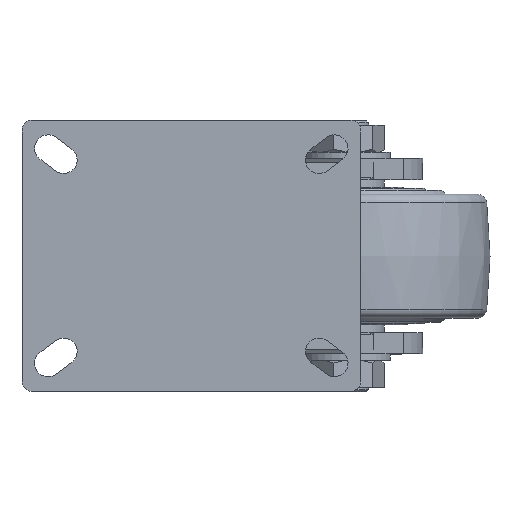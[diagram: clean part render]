
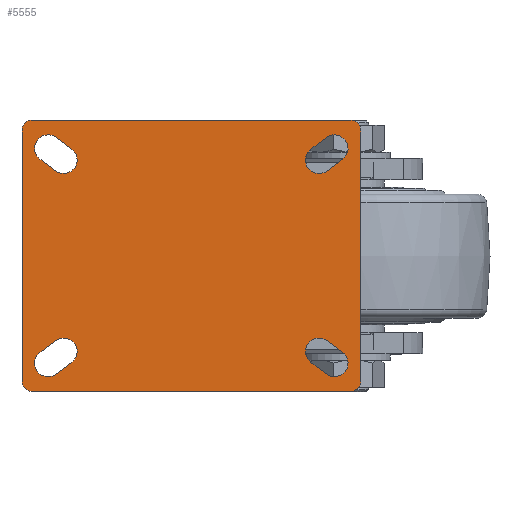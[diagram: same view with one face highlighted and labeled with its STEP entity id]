
A CAD part, top view. The second image highlights one B-rep face of the part: STEP entity #5555.
In plain terms, the highlighted planar face has unit normal (0, 0, 1).
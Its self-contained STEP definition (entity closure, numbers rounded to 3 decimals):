
#4242=CARTESIAN_POINT('',(90.716,258.53,175.));
#4243=VERTEX_POINT('',#4242);
#4244=CARTESIAN_POINT('',(99.116,247.33,175.));
#4245=VERTEX_POINT('',#4244);
#4246=CARTESIAN_POINT('',(94.916,252.93,175.));
#4247=DIRECTION('',(0.0,0.0,1.0));
#4248=DIRECTION('',(1.0,0.0,0.0));
#4249=AXIS2_PLACEMENT_3D('',#4246,#4247,#4248);
#4250=CIRCLE('',#4249,7.);
#4251=EDGE_CURVE('',#4243,#4245,#4250,.T.);
#4295=CARTESIAN_POINT('',(107.116,253.33,175.));
#4296=VERTEX_POINT('',#4295);
#4303=CARTESIAN_POINT('',(98.716,264.53,175.));
#4304=VERTEX_POINT('',#4303);
#4305=CARTESIAN_POINT('',(102.916,258.93,175.));
#4306=DIRECTION('',(0.0,0.0,1.0));
#4307=DIRECTION('',(1.0,0.0,0.0));
#4308=AXIS2_PLACEMENT_3D('',#4305,#4306,#4307);
#4309=CIRCLE('',#4308,7.);
#4310=EDGE_CURVE('',#4296,#4304,#4309,.T.);
#4337=CARTESIAN_POINT('',(98.716,142.33,175.));
#4338=VERTEX_POINT('',#4337);
#4345=CARTESIAN_POINT('',(107.116,153.53,175.));
#4346=VERTEX_POINT('',#4345);
#4347=CARTESIAN_POINT('',(102.916,147.93,175.));
#4348=DIRECTION('',(0.0,0.0,1.0));
#4349=DIRECTION('',(1.0,0.0,0.0));
#4350=AXIS2_PLACEMENT_3D('',#4347,#4348,#4349);
#4351=CIRCLE('',#4350,7.);
#4352=EDGE_CURVE('',#4338,#4346,#4351,.T.);
#4368=CARTESIAN_POINT('',(99.116,159.53,175.));
#4369=VERTEX_POINT('',#4368);
#4370=CARTESIAN_POINT('',(90.716,148.33,175.));
#4371=VERTEX_POINT('',#4370);
#4372=CARTESIAN_POINT('',(94.916,153.93,175.));
#4373=DIRECTION('',(0.0,0.0,1.0));
#4374=DIRECTION('',(1.0,0.0,0.0));
#4375=AXIS2_PLACEMENT_3D('',#4372,#4373,#4374);
#4376=CIRCLE('',#4375,7.);
#4377=EDGE_CURVE('',#4369,#4371,#4376,.T.);
#4421=CARTESIAN_POINT('',(-32.884,148.33,175.));
#4422=VERTEX_POINT('',#4421);
#4429=CARTESIAN_POINT('',(-41.284,159.53,175.));
#4430=VERTEX_POINT('',#4429);
#4431=CARTESIAN_POINT('',(-37.084,153.93,175.));
#4432=DIRECTION('',(0.0,0.0,1.0));
#4433=DIRECTION('',(1.0,0.0,0.0));
#4434=AXIS2_PLACEMENT_3D('',#4431,#4432,#4433);
#4435=CIRCLE('',#4434,7.);
#4436=EDGE_CURVE('',#4422,#4430,#4435,.T.);
#4452=CARTESIAN_POINT('',(-49.284,153.53,175.));
#4453=VERTEX_POINT('',#4452);
#4454=CARTESIAN_POINT('',(-40.884,142.33,175.));
#4455=VERTEX_POINT('',#4454);
#4456=CARTESIAN_POINT('',(-45.084,147.93,175.));
#4457=DIRECTION('',(0.0,0.0,1.0));
#4458=DIRECTION('',(1.0,0.0,0.0));
#4459=AXIS2_PLACEMENT_3D('',#4456,#4457,#4458);
#4460=CIRCLE('',#4459,7.);
#4461=EDGE_CURVE('',#4453,#4455,#4460,.T.);
#4494=CARTESIAN_POINT('',(-40.884,264.53,175.));
#4495=VERTEX_POINT('',#4494);
#4496=CARTESIAN_POINT('',(-49.284,253.33,175.));
#4497=VERTEX_POINT('',#4496);
#4498=CARTESIAN_POINT('',(-45.084,258.93,175.));
#4499=DIRECTION('',(0.0,0.0,1.0));
#4500=DIRECTION('',(1.0,0.0,0.0));
#4501=AXIS2_PLACEMENT_3D('',#4498,#4499,#4500);
#4502=CIRCLE('',#4501,7.);
#4503=EDGE_CURVE('',#4495,#4497,#4502,.T.);
#4547=CARTESIAN_POINT('',(-41.284,247.33,175.));
#4548=VERTEX_POINT('',#4547);
#4555=CARTESIAN_POINT('',(-32.884,258.53,175.));
#4556=VERTEX_POINT('',#4555);
#4557=CARTESIAN_POINT('',(-37.084,252.93,175.));
#4558=DIRECTION('',(0.0,0.0,1.0));
#4559=DIRECTION('',(1.0,0.0,0.0));
#4560=AXIS2_PLACEMENT_3D('',#4557,#4558,#4559);
#4561=CIRCLE('',#4560,7.);
#4562=EDGE_CURVE('',#4548,#4556,#4561,.T.);
#4614=CARTESIAN_POINT('',(116.416,138.43,175.));
#4615=VERTEX_POINT('',#4614);
#4622=CARTESIAN_POINT('',(111.416,133.43,175.));
#4623=VERTEX_POINT('',#4622);
#4624=CARTESIAN_POINT('',(111.416,138.43,175.));
#4625=DIRECTION('',(0.0,0.0,-1.));
#4626=DIRECTION('',(0.707,-0.707,0.0));
#4627=AXIS2_PLACEMENT_3D('',#4624,#4625,#4626);
#4628=CIRCLE('',#4627,5.);
#4629=EDGE_CURVE('',#4615,#4623,#4628,.T.);
#4656=CARTESIAN_POINT('',(111.416,273.43,175.));
#4657=VERTEX_POINT('',#4656);
#4664=CARTESIAN_POINT('',(116.416,268.43,175.));
#4665=VERTEX_POINT('',#4664);
#4666=CARTESIAN_POINT('',(111.416,268.43,175.));
#4667=DIRECTION('',(0.0,0.0,-1.));
#4668=DIRECTION('',(0.707,0.707,0.0));
#4669=AXIS2_PLACEMENT_3D('',#4666,#4667,#4668);
#4670=CIRCLE('',#4669,5.);
#4671=EDGE_CURVE('',#4657,#4665,#4670,.T.);
#4698=CARTESIAN_POINT('',(-58.584,268.43,175.));
#4699=VERTEX_POINT('',#4698);
#4706=CARTESIAN_POINT('',(-53.584,273.43,175.));
#4707=VERTEX_POINT('',#4706);
#4708=CARTESIAN_POINT('',(-53.584,268.43,175.));
#4709=DIRECTION('',(0.0,0.0,-1.));
#4710=DIRECTION('',(-0.707,0.707,0.0));
#4711=AXIS2_PLACEMENT_3D('',#4708,#4709,#4710);
#4712=CIRCLE('',#4711,5.);
#4713=EDGE_CURVE('',#4699,#4707,#4712,.T.);
#4740=CARTESIAN_POINT('',(-53.584,133.43,175.));
#4741=VERTEX_POINT('',#4740);
#4748=CARTESIAN_POINT('',(-58.584,138.43,175.));
#4749=VERTEX_POINT('',#4748);
#4750=CARTESIAN_POINT('',(-53.584,138.43,175.));
#4751=DIRECTION('',(0.0,0.0,-1.));
#4752=DIRECTION('',(-0.707,-0.707,0.0));
#4753=AXIS2_PLACEMENT_3D('',#4750,#4751,#4752);
#4754=CIRCLE('',#4753,5.);
#4755=EDGE_CURVE('',#4741,#4749,#4754,.T.);
#5172=CARTESIAN_POINT('',(-58.584,138.43,175.));
#5173=DIRECTION('',(0.0,1.0,0.0));
#5174=VECTOR('',#5173,130.);
#5175=LINE('',#5172,#5174);
#5176=EDGE_CURVE('',#4749,#4699,#5175,.T.);
#5271=CARTESIAN_POINT('',(116.416,268.43,175.));
#5272=DIRECTION('',(0.0,-1.0,0.0));
#5273=VECTOR('',#5272,130.0);
#5274=LINE('',#5271,#5273);
#5275=EDGE_CURVE('',#4665,#4615,#5274,.T.);
#5350=CARTESIAN_POINT('',(-53.584,273.43,175.));
#5351=DIRECTION('',(1.0,0.0,0.0));
#5352=VECTOR('',#5351,165.0);
#5353=LINE('',#5350,#5352);
#5354=EDGE_CURVE('',#4707,#4657,#5353,.T.);
#5371=CARTESIAN_POINT('',(111.416,133.43,175.));
#5372=DIRECTION('',(-1.0,0.0,0.0));
#5373=VECTOR('',#5372,165.0);
#5374=LINE('',#5371,#5373);
#5375=EDGE_CURVE('',#4623,#4741,#5374,.T.);
#5385=CARTESIAN_POINT('',(-32.884,258.53,175.));
#5386=DIRECTION('',(-0.8,0.6,0.0));
#5387=VECTOR('',#5386,10.0);
#5388=LINE('',#5385,#5387);
#5389=EDGE_CURVE('',#4556,#4495,#5388,.T.);
#5402=CARTESIAN_POINT('',(-49.284,253.33,175.));
#5403=DIRECTION('',(0.8,-0.6,0.0));
#5404=VECTOR('',#5403,10.);
#5405=LINE('',#5402,#5404);
#5406=EDGE_CURVE('',#4497,#4548,#5405,.T.);
#5419=CARTESIAN_POINT('',(-40.884,142.33,175.));
#5420=DIRECTION('',(0.8,0.6,0.0));
#5421=VECTOR('',#5420,10.0);
#5422=LINE('',#5419,#5421);
#5423=EDGE_CURVE('',#4455,#4422,#5422,.T.);
#5436=CARTESIAN_POINT('',(-41.284,159.53,175.));
#5437=DIRECTION('',(-0.8,-0.6,0.0));
#5438=VECTOR('',#5437,10.);
#5439=LINE('',#5436,#5438);
#5440=EDGE_CURVE('',#4430,#4453,#5439,.T.);
#5453=CARTESIAN_POINT('',(90.716,148.33,175.));
#5454=DIRECTION('',(0.8,-0.6,0.0));
#5455=VECTOR('',#5454,10.0);
#5456=LINE('',#5453,#5455);
#5457=EDGE_CURVE('',#4371,#4338,#5456,.T.);
#5470=CARTESIAN_POINT('',(107.116,153.53,175.));
#5471=DIRECTION('',(-0.8,0.6,0.0));
#5472=VECTOR('',#5471,10.);
#5473=LINE('',#5470,#5472);
#5474=EDGE_CURVE('',#4346,#4369,#5473,.T.);
#5487=CARTESIAN_POINT('',(98.716,264.53,175.));
#5488=DIRECTION('',(-0.8,-0.6,0.0));
#5489=VECTOR('',#5488,10.0);
#5490=LINE('',#5487,#5489);
#5491=EDGE_CURVE('',#4304,#4243,#5490,.T.);
#5504=CARTESIAN_POINT('',(99.116,247.33,175.));
#5505=DIRECTION('',(0.8,0.6,0.0));
#5506=VECTOR('',#5505,10.);
#5507=LINE('',#5504,#5506);
#5508=EDGE_CURVE('',#4245,#4296,#5507,.T.);
#5516=CARTESIAN_POINT('',(-41.284,247.33,175.));
#5517=DIRECTION('',(0.0,0.0,1.0));
#5518=DIRECTION('',(1.0,0.0,0.0));
#5519=AXIS2_PLACEMENT_3D('',#5516,#5517,#5518);
#5520=PLANE('',#5519);
#5521=ORIENTED_EDGE('',*,*,#4755,.F.);
#5522=ORIENTED_EDGE('',*,*,#5375,.F.);
#5523=ORIENTED_EDGE('',*,*,#4629,.F.);
#5524=ORIENTED_EDGE('',*,*,#5275,.F.);
#5525=ORIENTED_EDGE('',*,*,#4671,.F.);
#5526=ORIENTED_EDGE('',*,*,#5354,.F.);
#5527=ORIENTED_EDGE('',*,*,#4713,.F.);
#5528=ORIENTED_EDGE('',*,*,#5176,.F.);
#5529=EDGE_LOOP('',(#5521,#5522,#5523,#5524,#5525,#5526,#5527,#5528));
#5530=FACE_OUTER_BOUND('',#5529,.T.);
#5531=ORIENTED_EDGE('',*,*,#4310,.F.);
#5532=ORIENTED_EDGE('',*,*,#5508,.F.);
#5533=ORIENTED_EDGE('',*,*,#4251,.F.);
#5534=ORIENTED_EDGE('',*,*,#5491,.F.);
#5535=EDGE_LOOP('',(#5531,#5532,#5533,#5534));
#5536=FACE_BOUND('',#5535,.T.);
#5537=ORIENTED_EDGE('',*,*,#4377,.F.);
#5538=ORIENTED_EDGE('',*,*,#5474,.F.);
#5539=ORIENTED_EDGE('',*,*,#4352,.F.);
#5540=ORIENTED_EDGE('',*,*,#5457,.F.);
#5541=EDGE_LOOP('',(#5537,#5538,#5539,#5540));
#5542=FACE_BOUND('',#5541,.T.);
#5543=ORIENTED_EDGE('',*,*,#4461,.F.);
#5544=ORIENTED_EDGE('',*,*,#5440,.F.);
#5545=ORIENTED_EDGE('',*,*,#4436,.F.);
#5546=ORIENTED_EDGE('',*,*,#5423,.F.);
#5547=EDGE_LOOP('',(#5543,#5544,#5545,#5546));
#5548=FACE_BOUND('',#5547,.T.);
#5549=ORIENTED_EDGE('',*,*,#4562,.F.);
#5550=ORIENTED_EDGE('',*,*,#5406,.F.);
#5551=ORIENTED_EDGE('',*,*,#4503,.F.);
#5552=ORIENTED_EDGE('',*,*,#5389,.F.);
#5553=EDGE_LOOP('',(#5549,#5550,#5551,#5552));
#5554=FACE_BOUND('',#5553,.T.);
#5555=ADVANCED_FACE('',(#5530,#5536,#5542,#5548,#5554),#5520,.T.);
